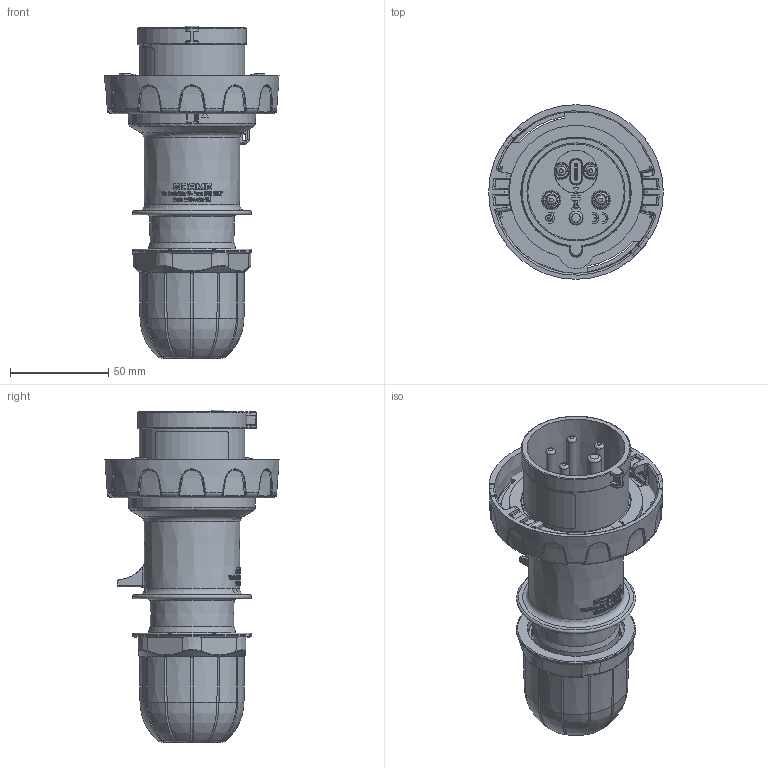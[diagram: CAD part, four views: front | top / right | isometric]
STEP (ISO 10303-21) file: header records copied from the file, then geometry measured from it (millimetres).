
FILE_DESCRIPTION(/* description */ (''),/* implementation_level */ '2;1');
FILE_NAME(/* name */ '4000394.stp',/* time_stamp */ '2021-02-03T08:12:25+01:00',/* author */ (''),/* organization */ (''),/* preprocessor_version */ 'ST-DEVELOPER v16.7',/* originating_system */ 'SIEMENS PLM Software NX 1946',/* authorisation */ '');
FILE_SCHEMA (('AUTOMOTIVE_DESIGN { 1 0 10303 214 3 1 1 1 }'));
Products named in the file (1): BSOM32A8658Exyuh
Bounding box: 89 x 89 x 169.2 mm (x, y, z)
Volume: 133640.2 mm3; surface area: 147879.7 mm2
Topology: 18 solids, 19 shells, 3736 faces, 9896 edges, 6316 vertices
Faces by surface type: plane 1263, bspline 755, cylinder 559, cone 455, extrusion 379, torus 264, sphere 60, revolution 1
Full cylindrical faces by diameter (mm): 0.2 x1, 0.4 x1, 1 x1, 3 x5, 3.2 x1, 3.6 x5, 5 x4, 6.4 x4, 7 x2, 8 x1, 44.4 x1, 45.5 x3, 45.9 x1, 46.2 x1, 46.8 x1, 53.8 x1, 60.7 x1, 65 x1
Entity records: 172575 total; most frequent: CARTESIAN_POINT 88684, ORIENTED_EDGE 19114, DIRECTION 13713, EDGE_CURVE 9557, VERTEX_POINT 6218, AXIS2_PLACEMENT_3D 5312, B_SPLINE_CURVE_WITH_KNOTS 4505, EDGE_LOOP 4152
